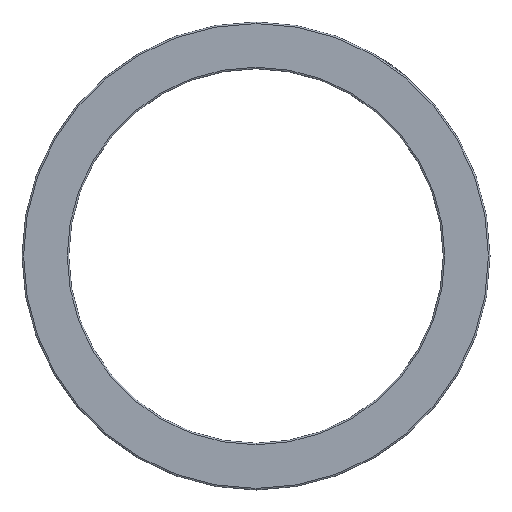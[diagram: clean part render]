
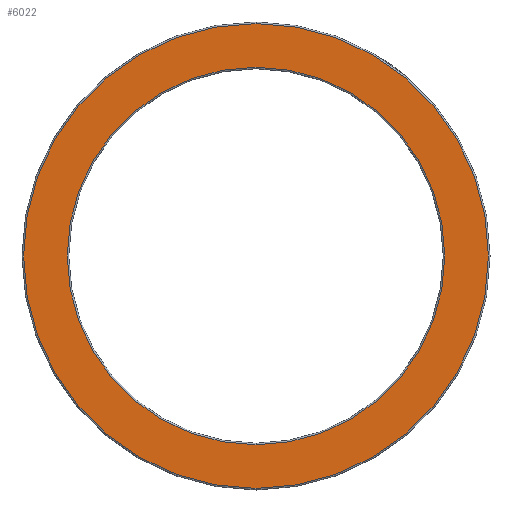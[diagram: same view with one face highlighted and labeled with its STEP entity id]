
A CAD part, front view. The second image highlights one B-rep face of the part: STEP entity #6022.
In plain terms, the highlighted planar face has unit normal (0, -1, 0).
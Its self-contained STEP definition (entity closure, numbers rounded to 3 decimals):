
#244 = CIRCLE ( 'NONE', #1324, 60.5 ) ;
#672 = DIRECTION ( 'NONE',  ( 0., 0., 1. ) ) ;
#676 = DIRECTION ( 'NONE',  ( 0., -1., 0. ) ) ;
#677 = CARTESIAN_POINT ( 'NONE',  ( 0., 0., 0. ) ) ;
#743 = VERTEX_POINT ( 'NONE', #4214 ) ;
#821 = VERTEX_POINT ( 'NONE', #4054 ) ;
#838 = CARTESIAN_POINT ( 'NONE',  ( 0., 0., -74.5 ) ) ;
#1161 = DIRECTION ( 'NONE',  ( 0., -1., 0. ) ) ;
#1179 = VERTEX_POINT ( 'NONE', #838 ) ;
#1272 = EDGE_CURVE ( 'NONE', #1179, #4438, #3050, .T. ) ;
#1324 = AXIS2_PLACEMENT_3D ( 'NONE', #5139, #2085, #5654 ) ;
#1366 = DIRECTION ( 'NONE',  ( 0., 1., 0. ) ) ;
#1454 = AXIS2_PLACEMENT_3D ( 'NONE', #4443, #1366, #4959 ) ;
#1650 = ORIENTED_EDGE ( 'NONE', *, *, #1975, .T. ) ;
#1911 = EDGE_CURVE ( 'NONE', #821, #743, #6477, .T. ) ;
#1975 = EDGE_CURVE ( 'NONE', #4438, #1179, #3632, .T. ) ;
#2085 = DIRECTION ( 'NONE',  ( 0., 1., 0. ) ) ;
#2232 = EDGE_CURVE ( 'NONE', #743, #821, #244, .T. ) ;
#2511 = EDGE_LOOP ( 'NONE', ( #6483, #6577 ) ) ;
#2819 = AXIS2_PLACEMENT_3D ( 'NONE', #4240, #1161, #4746 ) ;
#2968 = PLANE ( 'NONE',  #5278 ) ;
#3050 = CIRCLE ( 'NONE', #4114, 74.5 ) ;
#3458 = FACE_OUTER_BOUND ( 'NONE', #4921, .T. ) ;
#3498 = DIRECTION ( 'NONE',  ( 0., 0., 1. ) ) ;
#3632 = CIRCLE ( 'NONE', #2819, 74.5 ) ;
#4054 = CARTESIAN_POINT ( 'NONE',  ( 0., 0., -60.5 ) ) ;
#4114 = AXIS2_PLACEMENT_3D ( 'NONE', #677, #676, #672 ) ;
#4214 = CARTESIAN_POINT ( 'NONE',  ( 0., 0., 60.5 ) ) ;
#4240 = CARTESIAN_POINT ( 'NONE',  ( 0., 0., 0. ) ) ;
#4438 = VERTEX_POINT ( 'NONE', #6265 ) ;
#4443 = CARTESIAN_POINT ( 'NONE',  ( 0., 0., 0. ) ) ;
#4746 = DIRECTION ( 'NONE',  ( 0., 0., 1. ) ) ;
#4814 = FACE_BOUND ( 'NONE', #2511, .T. ) ;
#4869 = ORIENTED_EDGE ( 'NONE', *, *, #1272, .T. ) ;
#4921 = EDGE_LOOP ( 'NONE', ( #1650, #4869 ) ) ;
#4959 = DIRECTION ( 'NONE',  ( 0., 0., 1. ) ) ;
#5139 = CARTESIAN_POINT ( 'NONE',  ( 0., 0., 0. ) ) ;
#5278 = AXIS2_PLACEMENT_3D ( 'NONE', #5460, #6524, #3498 ) ;
#5460 = CARTESIAN_POINT ( 'NONE',  ( 0., 0., 0. ) ) ;
#5654 = DIRECTION ( 'NONE',  ( 0., 0., 1. ) ) ;
#6022 = ADVANCED_FACE ( 'NONE', ( #4814, #3458 ), #2968, .F. ) ;
#6265 = CARTESIAN_POINT ( 'NONE',  ( 0., 0., 74.5 ) ) ;
#6477 = CIRCLE ( 'NONE', #1454, 60.5 ) ;
#6483 = ORIENTED_EDGE ( 'NONE', *, *, #2232, .T. ) ;
#6524 = DIRECTION ( 'NONE',  ( 0., 1., 0. ) ) ;
#6577 = ORIENTED_EDGE ( 'NONE', *, *, #1911, .T. ) ;
